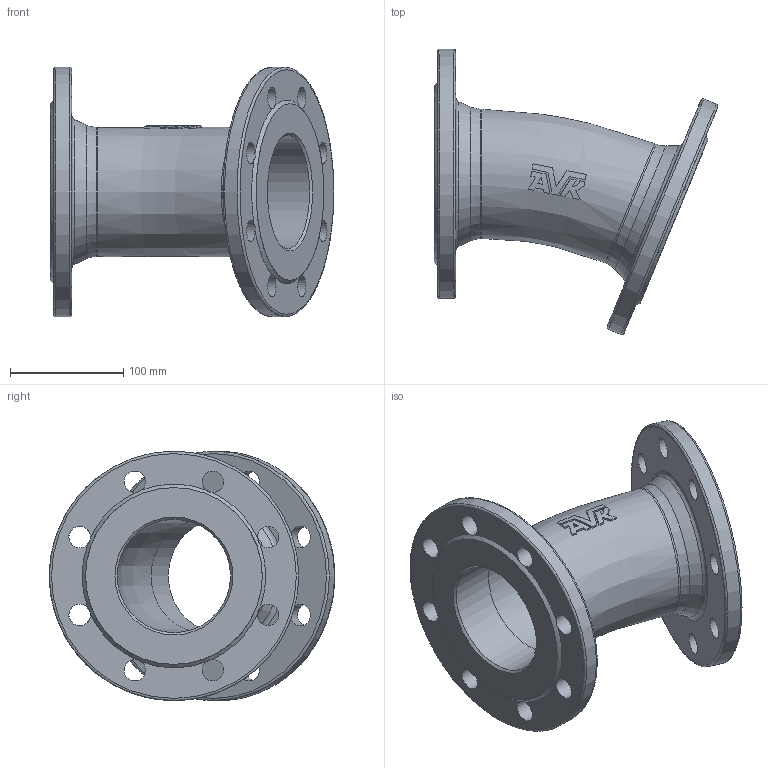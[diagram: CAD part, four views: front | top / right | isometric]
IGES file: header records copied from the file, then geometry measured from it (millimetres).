
Start section: SolidWorks IGES file using analytic representation for surfaces
Global section: file name: \\avksan2\techshare\PBM outline export from Enovia\O_712_0210_DN100_1X_REV01.igs; native system: SolidWorks 2022; preprocessor: SolidWorks 2022; author: pbm; date: 240815.140201; units: millimetre
Bounding box: 250.32 x 251.96 x 220 mm (x, y, z)
Surface area: 271481.1 mm2 (no closed solid volume)
Topology: 0 solids, 0 shells, 85 faces, 465 edges, 427 vertices
Faces by surface type: revolution 44, bspline 41
